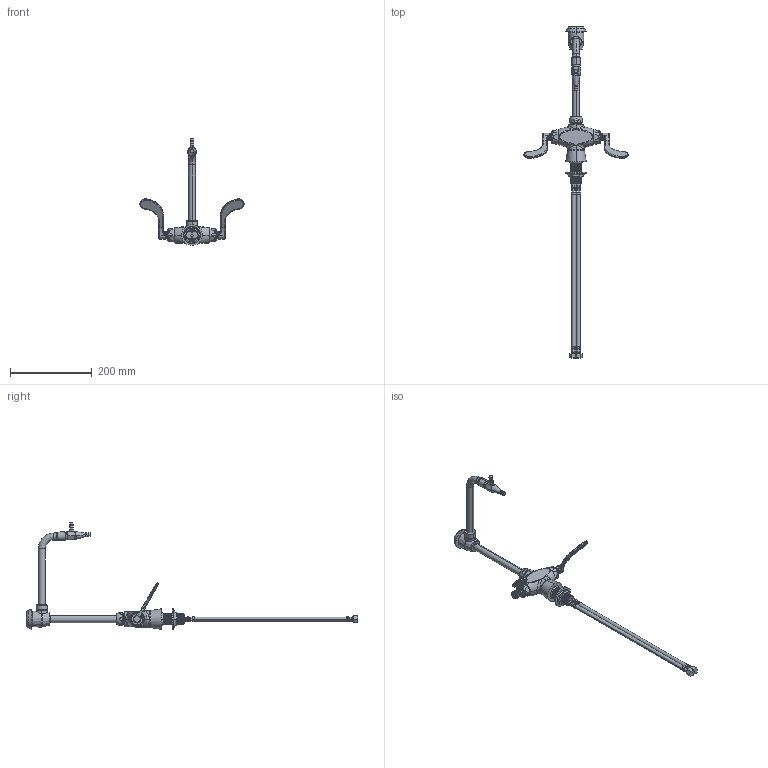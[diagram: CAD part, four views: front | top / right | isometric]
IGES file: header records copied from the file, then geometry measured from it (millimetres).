
Start section:  PTC IGES file: LWM1-C33-F.igs
Global section: file name: LWM1-C33-F.igs; native system: Creo Parametric by PTC Inc.; preprocessor: 2014500; author: usch_engrender; organization: Unknown; date: 20160210.103230; units: inch
Bounding box: 254.15 x 810.88 x 261.38 mm (x, y, z)
Surface area: 145318.7 mm2 (no closed solid volume)
Topology: 0 solids, 69 shells, 465 faces, 1414 edges, 999 vertices
Faces by surface type: revolution 268, bspline 197
